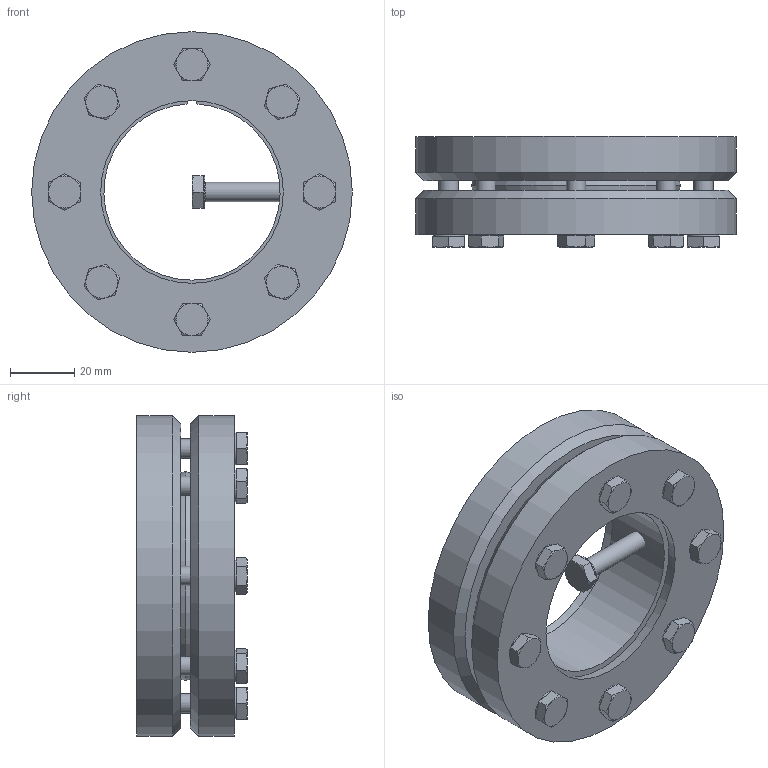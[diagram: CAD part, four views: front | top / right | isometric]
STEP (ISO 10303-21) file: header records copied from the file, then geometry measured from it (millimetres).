
FILE_DESCRIPTION( ( 'Unknown' ), '1' );
FILE_NAME( 'C:/Dokumente und Einstellungen/Sven/Desktop/homepage/cad - homepage/KBS19/KBS 19 - 55 x 100.stp', 'Unknown', ( 'Unknown' ), ( 'Unknown' ), 'XStep 1.0', 'Unknown', ' ' );
FILE_SCHEMA( ( 'automotive_design' ) );
Length unit declared in the file: millimetre
Products named in the file (3): Assem1; KBS 19 - 55 x 100; ISO 4017 - M6 x 25-N
Bounding box: 100 x 34.5 x 100 mm (x, y, z)
Volume: 294826.5 mm3; surface area: 82109.1 mm2
Topology: 11 solids, 11 shells, 303 faces, 706 edges, 434 vertices
Faces by surface type: plane 163, cone 75, cylinder 56, torus 9
Full cylindrical faces by diameter (mm): 6 x41, 10 x9, 100 x4
Entity records: 2208 total; most frequent: CARTESIAN_POINT 341, DIRECTION 326, ORIENTED_EDGE 252, AXIS2_PLACEMENT_3D 142, EDGE_LOOP 127, EDGE_CURVE 126, VERTEX_POINT 93, FACE_OUTER_BOUND 85
